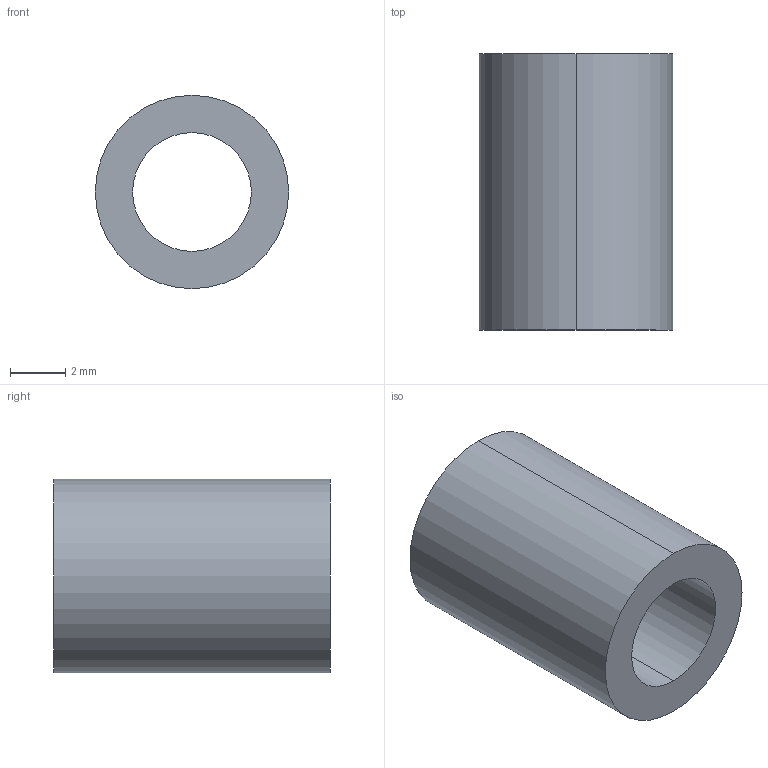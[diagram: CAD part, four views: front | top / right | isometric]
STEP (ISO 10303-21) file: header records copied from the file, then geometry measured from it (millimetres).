
FILE_DESCRIPTION (( 'STEP AP214' ), '1' );
FILE_NAME ('S-4.3x10x7.STEP', '2014-12-30T11:12:45', ( 'Tester2' ), ( '' ), 'SwSTEP 2.0', 'SolidWorks 2012', '' );
FILE_SCHEMA (( 'AUTOMOTIVE_DESIGN' ));
Length unit declared in the file: millimetre
Products named in the file (1): S-4.3x10x7
Bounding box: 7 x 10 x 7 mm (x, y, z)
Volume: 239.6 mm3; surface area: 402.9 mm2
Topology: 1 solids, 1 shells, 6 faces, 12 edges, 8 vertices
Faces by surface type: cylinder 4, plane 2
Entity records: 202 total; most frequent: DIRECTION 34, CARTESIAN_POINT 27, ORIENTED_EDGE 24, AXIS2_PLACEMENT_3D 15, EDGE_CURVE 12, EDGE_LOOP 8, VERTEX_POINT 8, CIRCLE 8
